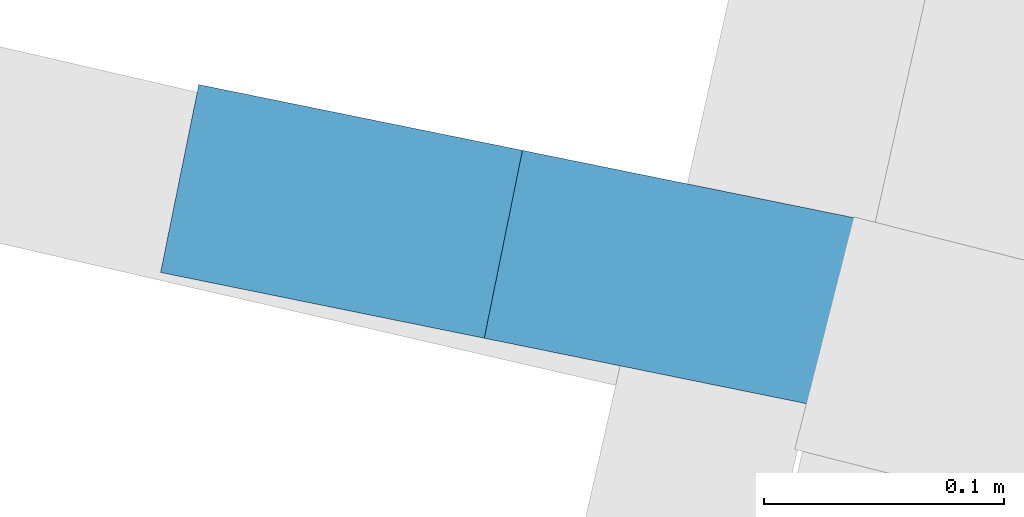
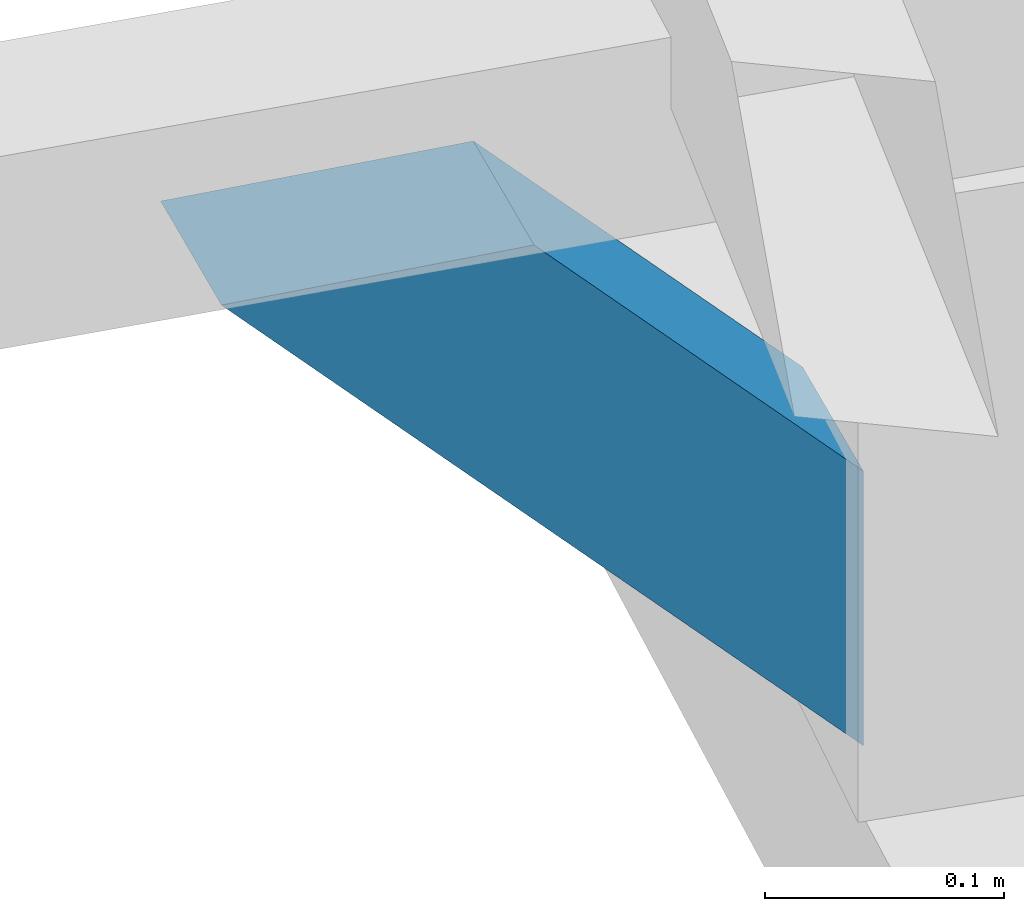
# One storey, part 7 of 158: 1 beam.
"""IFC2X3 building model written with IfcOpenShell, lengths in metres."""

import ifcopenshell
import ifcopenshell.guid

model = None  # the IFC model being written
_history = None  # IfcOwnerHistory: only IFC2X3 demands one
_inside = {}  # id of a spatial element -> (the spatial element, [elements in it])
_under = {}  # id of a project, library or spatial element -> (it, [spatial elements below it])
_declared = {}  # id of a project -> (the project, [libraries it declares])
_typed = {}  # id of a type object -> (the type object, [elements of that type])
_made_of = {}  # id of a material, layer set ... -> (it, [elements and type objects made of it])


def new_model(schema):
    """Start an empty IFC model of exactly this schema.

    Asked for "IFC4X3", IfcOpenShell would pick the latest addendum, in which some entities
    have other attributes; the version numbers below select the first issue.
    IFC2X3 requires an IfcOwnerHistory on every rooted entity: one is made here for all.
    """
    global model, _history
    if schema == "IFC4X3":
        model = ifcopenshell.file(schema_version=(4, 3, 0, 0))
    else:
        model = ifcopenshell.file(schema=schema)
    _inside.clear()
    _under.clear()
    _declared.clear()
    _typed.clear()
    _made_of.clear()
    _history = None
    if model.schema == "IFC2X3":
        org = make("IfcOrganization", Name="unknown")
        user = make(
            "IfcPersonAndOrganization",
            ThePerson=make("IfcPerson", FamilyName="unknown"),
            TheOrganization=org,
        )
        app = make(
            "IfcApplication",
            ApplicationDeveloper=org,
            Version="unknown",
            ApplicationFullName="unknown",
            ApplicationIdentifier="unknown",
        )
        _history = make(
            "IfcOwnerHistory",
            OwningUser=user,
            OwningApplication=app,
            ChangeAction="ADDED",
            CreationDate=0,
        )
    return model


def make(cls, **values):
    """One entity of the class cls with the attributes given. An attribute that is None is left unset."""
    return model.create_entity(
        cls, **{name: value for name, value in values.items() if value is not None}
    )


def entity(cls, *values):
    """Any entity or typed value of the class cls, its attributes in the order of the schema. None: left unset."""
    e = model.create_entity(cls)
    for i, value in enumerate(values):
        if value is not None:
            e[i] = value
    return e


def rooted(cls, **values):
    """An entity with a GlobalId (a new one), such as an element, a storey or a relation."""
    return make(cls, GlobalId=ifcopenshell.guid.new(), OwnerHistory=_history, **values)


def si_unit(unit_type, name, prefix=None):
    """IfcSIUnit, for example si_unit("LENGTHUNIT", "METRE", prefix="MILLI")."""
    return make("IfcSIUnit", UnitType=unit_type, Prefix=prefix, Name=name)


def converted_unit(unit_type, name, factor, base, dimensions=None, offset=None):
    """IfcConversionBasedUnit, such as the inch: factor (a typed value) times the base unit."""
    return make(
        "IfcConversionBasedUnit"
        if offset is None
        else "IfcConversionBasedUnitWithOffset",
        ConversionOffset=offset,
        Dimensions=None
        if dimensions is None
        else entity("IfcDimensionalExponents", *dimensions),
        UnitType=unit_type,
        Name=name,
        ConversionFactor=make(
            "IfcMeasureWithUnit", ValueComponent=factor, UnitComponent=base
        ),
    )


def derived_unit(unit_type, elements):
    """IfcDerivedUnit: a product of units, each with its exponent."""
    return make(
        "IfcDerivedUnit",
        Elements=[
            make("IfcDerivedUnitElement", Unit=unit, Exponent=power)
            for unit, power in elements
        ],
        UnitType=unit_type,
    )


def money_unit(currency):
    """IfcMonetaryUnit."""
    return make("IfcMonetaryUnit", Currency=currency)


def assignment(units):
    """IfcUnitAssignment: the units of a project."""
    return None if units is None else make("IfcUnitAssignment", Units=units)


def point(xyz):
    """IfcCartesianPoint."""
    return None if xyz is None else make("IfcCartesianPoint", Coordinates=xyz)


def direction(xyz):
    """IfcDirection."""
    return None if xyz is None else make("IfcDirection", DirectionRatios=xyz)


def frame(location, z_axis=None, x_axis=None):
    """IfcAxis2Placement3D, a coordinate frame: its origin and axes. An axis left out is left unset."""
    return make(
        "IfcAxis2Placement3D",
        Location=point(location),
        Axis=direction(z_axis),
        RefDirection=direction(x_axis),
    )


def frame_2d(location, x_axis=None):
    """IfcAxis2Placement2D, a coordinate frame in the plane: its origin and x axis."""
    return make(
        "IfcAxis2Placement2D", Location=point(location), RefDirection=direction(x_axis)
    )


def origin_with_axes():
    """The frame at (0, 0, 0) with the z axis (0, 0, 1) and the x axis (1, 0, 0) written out."""
    return frame((0.0, 0.0, 0.0), z_axis=(0.0, 0.0, 1.0), x_axis=(1.0, 0.0, 0.0))


def place(relative_to, where):
    """IfcLocalPlacement: puts the frame where relative to a parent placement (None: the world)."""
    return make(
        "IfcLocalPlacement", PlacementRelTo=relative_to, RelativePlacement=where
    )


def context(
    kind, dimensions, precision=None, world=None, true_north=None, identifier=None
):
    """IfcGeometricRepresentationContext, for example the 3D "Model" context."""
    return make(
        "IfcGeometricRepresentationContext",
        ContextIdentifier=identifier,
        ContextType=kind,
        CoordinateSpaceDimension=dimensions,
        Precision=precision,
        WorldCoordinateSystem=world,
        TrueNorth=true_north,
    )


def subcontext(parent, identifier, kind, view, scale=None):
    """IfcGeometricRepresentationSubContext, for example "Body" below "Model"."""
    return make(
        "IfcGeometricRepresentationSubContext",
        ContextIdentifier=identifier,
        ContextType=kind,
        ParentContext=parent,
        TargetScale=scale,
        TargetView=view,
    )


def project(units=None, contexts=None):
    """IfcProject with its units and contexts."""
    return rooted(
        "IfcProject",
        Name="project",
        RepresentationContexts=contexts,
        UnitsInContext=assignment(units),
    )


def spatial(cls, under=None, at=None, **own):
    """A site, building, storey or space (cls), placed at a placement, below another one or the project."""
    s = rooted(cls, ObjectPlacement=at, **own)
    if under is not None:
        _under.setdefault(under.id(), (under, []))[1].append(s)
    return s


def profile(cls, at=None, kind="AREA", **sizes):
    """A parametric profile (cls). Its sizes go by their IFC names, for example OverallWidth=200.0."""
    return make(cls, ProfileType=kind, Position=at, **sizes)


def rectangle(**sizes):
    """IfcRectangleProfileDef."""
    return profile("IfcRectangleProfileDef", **sizes)


def extrude(swept, where, along, depth):
    """IfcExtrudedAreaSolid: the profile swept, set in the frame where, extruded along a direction by depth."""
    return make(
        "IfcExtrudedAreaSolid",
        SweptArea=swept,
        Position=where,
        ExtrudedDirection=direction(along),
        Depth=depth,
    )


def clip(a, b, op="DIFFERENCE"):
    """IfcBooleanClippingResult: the solid a cut by the half space b."""
    return make(
        "IfcBooleanClippingResult", Operator=op, FirstOperand=a, SecondOperand=b
    )


def halfspace(plane, agree):
    """IfcHalfSpaceSolid: all space on one side of the plane z = 0 of the frame plane."""
    return make(
        "IfcHalfSpaceSolid",
        BaseSurface=make("IfcPlane", Position=plane),
        AgreementFlag=agree,
    )


def shape(context_of_items, identifier, shape_type, items):
    """IfcShapeRepresentation: the items that make up one representation, for example the "Body"."""
    return make(
        "IfcShapeRepresentation",
        ContextOfItems=context_of_items,
        RepresentationIdentifier=identifier,
        RepresentationType=shape_type,
        Items=items,
    )


def material(Name=None, Category=None):
    """IfcMaterial."""
    return make("IfcMaterial", Name=Name, Category=Category)


def made_of(thing, what):
    """Note that an element or type object is made of a material, layer set ...; save() writes the relation."""
    if what is not None:
        _made_of.setdefault(what.id(), (what, []))[1].append(thing)
    return thing


def type_object(cls, material=None, **own):
    """A type object (cls), such as IfcWallType, which elements share."""
    return made_of(rooted(cls, **own), material)


def element(
    cls,
    number,
    at=None,
    inside=None,
    cuts=None,
    type_object=None,
    material=None,
    context=None,
    identifier="Body",
    shape_type=None,
    held_by="IfcProductDefinitionShape",
    body=None,
    shapes=None,
    **own,
):
    """One element of the class cls, such as IfcWall. Its Tag is "e" and its number.

    at: its placement. inside: the storey or other place that contains it. cuts: it is an
    opening in that element (IfcRelVoidsElement). A single representation is given by context,
    identifier, shape_type and body (its items); several are given by shapes. held_by: the class
    of the entity that holds the representations. save() writes the other relations.
    """
    e = rooted(cls, Tag="e%d" % number, ObjectPlacement=at, **own)
    if body is not None:
        shapes = [shape(context, identifier, shape_type, body)]
    if shapes is not None:
        e.Representation = make(held_by, Representations=shapes)
    if inside is not None:
        _inside.setdefault(inside.id(), (inside, []))[1].append(e)
    if cuts is not None:
        rooted(
            "IfcRelVoidsElement", RelatingBuildingElement=cuts, RelatedOpeningElement=e
        )
    if type_object is not None:
        _typed.setdefault(type_object.id(), (type_object, []))[1].append(e)
    return made_of(e, material)


def aggregate(whole, parts):
    """IfcRelAggregates: a whole, such as a stair, and the parts it consists of."""
    return rooted("IfcRelAggregates", RelatingObject=whole, RelatedObjects=parts)


def save(model, path):
    """Write the relations noted so far, then the file.

    IfcRelAggregates (storeys below a building ...), IfcRelContainedInSpatialStructure (elements
    in a storey), IfcRelDefinesByType, IfcRelAssociatesMaterial and IfcRelDeclares: one each for
    every whole, place, type object, material and project.
    """
    for whole, parts in _under.values():
        aggregate(whole, parts)
    for where, things in _inside.values():
        rooted(
            "IfcRelContainedInSpatialStructure",
            RelatedElements=things,
            RelatingStructure=where,
        )
    for kind, things in _typed.values():
        rooted("IfcRelDefinesByType", RelatedObjects=things, RelatingType=kind)
    for what, things in _made_of.values():
        rooted("IfcRelAssociatesMaterial", RelatedObjects=things, RelatingMaterial=what)
    for by, libraries in _declared.values():
        rooted("IfcRelDeclares", RelatingContext=by, RelatedDefinitions=libraries)
    model.write(path)


model = new_model("IFC2X3")

# Units and contexts
model_context = context("Model", 3, precision=1e-05, world=origin_with_axes(), true_north=direction((0.0, 1.0)))
body_context = subcontext(model_context, "Body", "Model", "MODEL_VIEW")
ifc_project = project(units=[si_unit("LENGTHUNIT", "METRE"), si_unit("AREAUNIT", "SQUARE_METRE"), si_unit("VOLUMEUNIT", "CUBIC_METRE"), converted_unit("PLANEANGLEUNIT", "DEGREE", entity("IfcPlaneAngleMeasure", 0.0174532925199), si_unit("PLANEANGLEUNIT", "RADIAN"), dimensions=[0, 0, 0, 0, 0, 0, 0]), money_unit("EUR"), converted_unit("TIMEUNIT", "Year", entity("IfcTimeMeasure", 31556926.0), si_unit("TIMEUNIT", "SECOND"), dimensions=[0, 0, 1, 0, 0, 0, 0]), si_unit("MASSUNIT", "GRAM", prefix="KILO"), si_unit("THERMODYNAMICTEMPERATUREUNIT", "DEGREE_CELSIUS"), si_unit("LUMINOUSINTENSITYUNIT", "LUMEN"), si_unit("ENERGYUNIT", "JOULE", prefix="MEGA"), derived_unit("THERMALCONDUCTANCEUNIT", [(si_unit("POWERUNIT", "WATT"), 1), (si_unit("LENGTHUNIT", "METRE"), -1), (si_unit("THERMODYNAMICTEMPERATUREUNIT", "KELVIN"), -1)]), derived_unit("SPECIFICHEATCAPACITYUNIT", [(si_unit("ENERGYUNIT", "JOULE"), 1), (si_unit("MASSUNIT", "GRAM", prefix="KILO"), -1), (si_unit("THERMODYNAMICTEMPERATUREUNIT", "KELVIN"), -1)]), derived_unit("MASSDENSITYUNIT", [(si_unit("MASSUNIT", "GRAM", prefix="KILO"), 1), (si_unit("VOLUMEUNIT", "CUBIC_METRE"), -1)])], contexts=[model_context])

# Site, building, storey
site_placement = place(None, origin_with_axes())
site = spatial("IfcSite", under=ifc_project, at=site_placement, Name="Gelände", CompositionType="ELEMENT")
building_placement = place(site_placement, origin_with_axes())
building = spatial("IfcBuilding", under=site, at=building_placement, Name="Gebäude", CompositionType="ELEMENT")
storey_placement = place(building_placement, origin_with_axes())
storey = spatial("IfcBuildingStorey", under=building, at=storey_placement, Name="ERDGESCHOSS", CompositionType="ELEMENT", Elevation=0.0)

# Beam
ifc_material = material(Name="05_ALLGEMEIN - TRAGENDE BAUTEILE")
beam_type = type_object("IfcBeamType", Name="05_ALLGEMEIN - TRAGENDE BAUTEILE 80 x 98", PredefinedType="LINTEL")
beam_placement = place(storey_placement, frame((-64.8864022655, 70.2001762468, 0.3133625), z_axis=(0.0, 0.0, 1.0), x_axis=(0.199108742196, 0.979977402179, 0.0)))
element("IfcBeam", 1, at=beam_placement, inside=storey, type_object=beam_type, material=ifc_material, Name="Unterzug-083", ObjectType="LINTEL", context=body_context, shape_type="Clipping", body=[
    clip(clip(extrude(rectangle(XDim=0.0981735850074, YDim=0.0799267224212, at=frame_2d((0.0490867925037, 0.0399633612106), x_axis=(1.0, 0.0))), frame((0.0, -0.0989884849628, -0.100652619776), z_axis=(0.0, 0.701188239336, 0.712976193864), x_axis=(0.0, -0.712976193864, 0.701188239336)), (0.0, 0.0, 1.0), 0.680945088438), halfspace(frame((0.0, 0.0, 0.0), z_axis=(0.0, 1.0, 0.0), x_axis=(0.0, 0.0, 1.0)), True)), halfspace(frame((0.0, 0.0, 0.287493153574), z_axis=(0.0, 0.0, -1.0), x_axis=(0.0, 1.0, 0.0)), True)),
])

save(model, "model.ifc")
